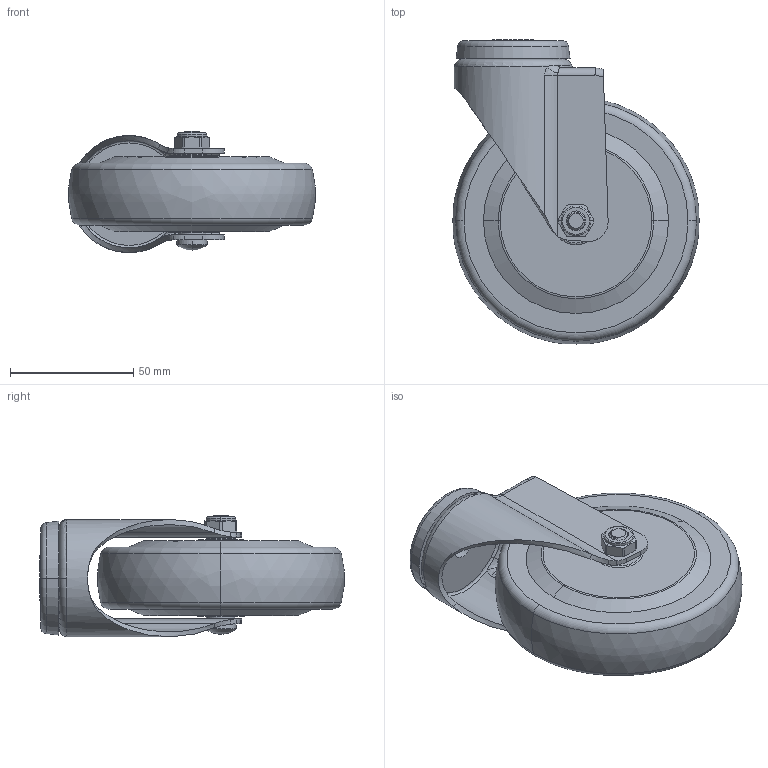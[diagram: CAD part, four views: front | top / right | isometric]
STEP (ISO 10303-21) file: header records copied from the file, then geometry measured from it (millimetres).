
FILE_DESCRIPTION((''),'2;1');
FILE_NAME('361125-3625-64_ASM','2020-01-03T',('L'),(''),'PRO/ENGINEER BY PARAMETRIC TECHNOLOGY CORPORATION, 2010280','PRO/ENGINEER BY PARAMETRIC TECHNOLOGY CORPORATION, 2010280','');
FILE_SCHEMA(('CONFIG_CONTROL_DESIGN'));
Length unit declared in the file: millimetre
Products named in the file (5): 36174; 364-964; 350-33A; 300-34; 361125-3625-64_ASM
Assembly tree (4 placements, depth 2):
  361125-3625-64_ASM
    36174
    364-964
    350-33A
    300-34
Bounding box: 99.72 x 123.16 x 49.24 mm (x, y, z)
Volume: 239218.1 mm3; surface area: 46005.2 mm2
Topology: 4 solids, 4 shells, 205 faces, 491 edges, 304 vertices
Faces by surface type: cylinder 70, plane 41, bspline 36, torus 32, cone 24, sphere 2
Entity records: 10761 total; most frequent: CARTESIAN_POINT 6099, ORIENTED_EDGE 978, DIRECTION 904, EDGE_CURVE 489, AXIS2_PLACEMENT_3D 377, VERTEX_POINT 304, EDGE_LOOP 227, FACE_OUTER_BOUND 205
